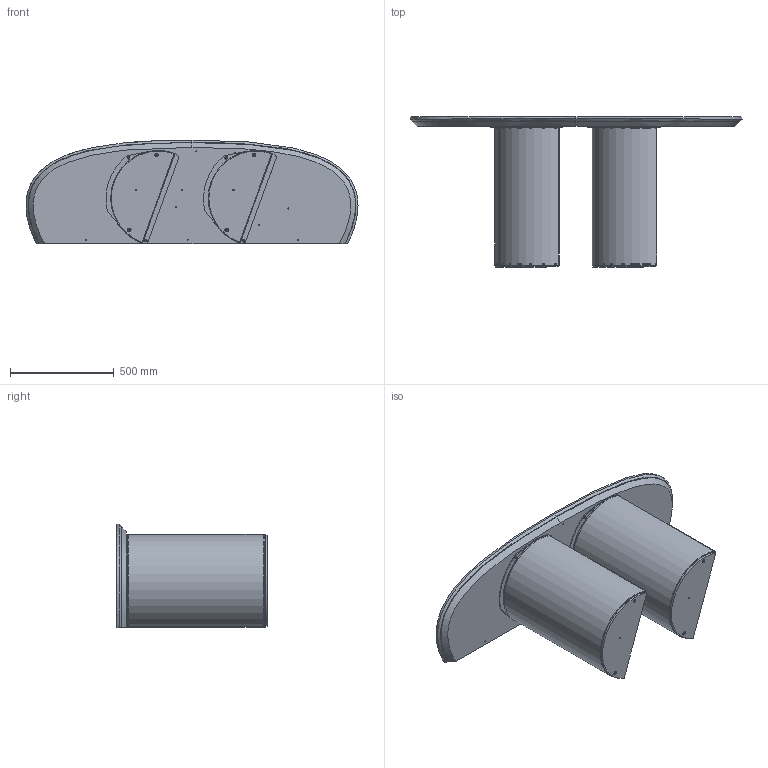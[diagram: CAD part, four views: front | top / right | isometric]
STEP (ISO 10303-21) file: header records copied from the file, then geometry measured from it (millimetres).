
FILE_DESCRIPTION (( 'STEP AP203' ), '1' );
FILE_NAME ('PL60G_Plai Console_160x50x72h_Glass Shaped.STEP', '2024-08-06T09:57:12', ( '' ), ( '' ), 'SwSTEP 2.0', 'SolidWorks 2022', '' );
FILE_SCHEMA (( 'CONFIG_CONTROL_DESIGN' ));
Length unit declared in the file: millimetre
Products named in the file (9): PL60G_Plai Console_160x50x72h_Glass Shaped; TRUXXXX-02-NOBILITATO Sasso per console_160x50; KXXXX-00-piani MARMO Sasso per console_160x50; PLA000000ZOC-01-PLAI ZOCCOLO DELLA BASE; KXXXX-00-piani MARMO Sasso per console_160X50; M8xXXmm_hex_M8X20mm; PLA000000BAS-00-PLAI BASE GREZZA; Assieme Basamento PLAI_Basamento per consolle; DOR000V01PST-00-DORA PIASTRA TELAIO
Assembly tree (10 placements, depth 3):
  PL60G_Plai Console_160x50x72h_Glass Shaped
    KXXXX-00-piani MARMO Sasso per console_160X50
      TRUXXXX-02-NOBILITATO Sasso per console_160x50
      KXXXX-00-piani MARMO Sasso per console_160x50
    Assieme Basamento PLAI_Basamento per consolle  x2
      PLA000000BAS-00-PLAI BASE GREZZA
      DOR000V01PST-00-DORA PIASTRA TELAIO
      PLA000000ZOC-01-PLAI ZOCCOLO DELLA BASE
      M8xXXmm_hex_M8X20mm
Bounding box: 1600 x 723 x 500 mm (x, y, z)
Volume: 37221798.1 mm3; surface area: 7222556.2 mm2
Topology: 18 solids, 18 shells, 398 faces, 912 edges, 526 vertices
Faces by surface type: plane 146, cylinder 144, cone 92, bspline 8, torus 8
Entity records: 9499 total; most frequent: CARTESIAN_POINT 3653, DIRECTION 1091, ORIENTED_EDGE 926, EDGE_CURVE 463, AXIS2_PLACEMENT_3D 428, VERTEX_POINT 289, EDGE_LOOP 260, VECTOR 235
